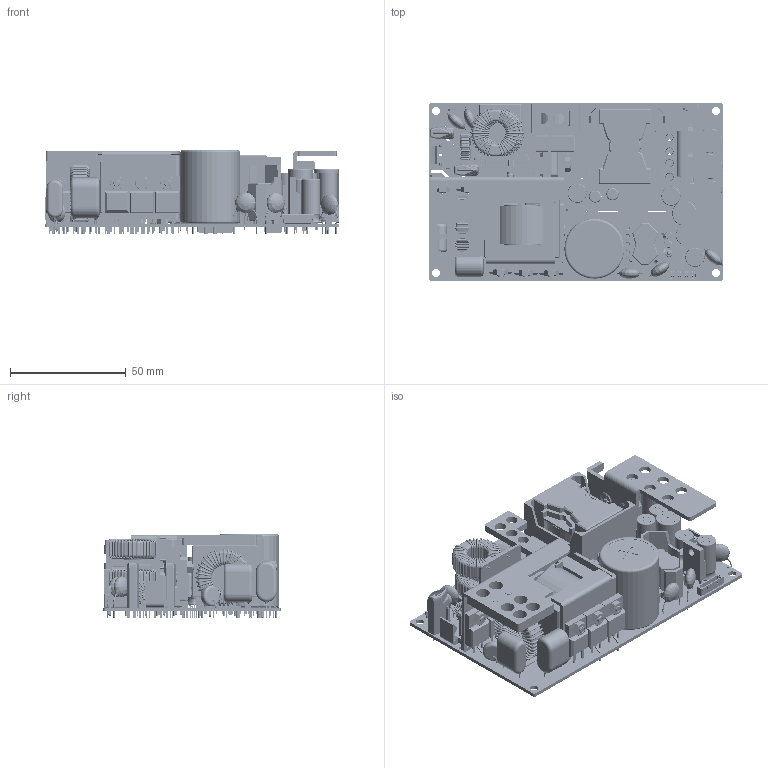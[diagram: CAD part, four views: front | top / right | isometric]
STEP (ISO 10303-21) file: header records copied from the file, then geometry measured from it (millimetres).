
FILE_DESCRIPTION((''),'2;1');
FILE_NAME('MDS-300APB','2015-04-10T',('Xiaojun.Wu'),(''),'CREO PARAMETRIC BY PTC INC, 2014500','CREO PARAMETRIC BY PTC INC, 2014500','');
FILE_SCHEMA(('CONFIG_CONTROL_DESIGN'));
Products named in the file (91): MDS-300WAPB24_AA_PCB_AF0; HEAT_SINK-1_AF1; HSK-1; PIN_AF0; PIN_AF1; HEAT_SINK-1_AF0; Q5_Q6_AF0; Q5_Q6_AF1; BD1_AF0; 3105319000_M3X6_GB822; 3105456700_M3X7_GB819; 3110110100_M3_GB6170; HSK1_AF0; HEAT_SINK-2_AF1; PIN_AF2; PIN_AF3; HEAT_SINK-2_AF0; D10_AF0; Q5_Q6_AF2; Q5_Q6_AF3; HSK2_AF0; HEAT_SINK-3_AF1; PIN_AF4; PIN_AF5; HEAT_SINK-3_AF0; Q102_Q101_D101_AF0; Q102_Q101_D101_AF1; HSK3_AF0; HEAT_SINK-4; Q5_Q6_AF4; Q5_Q6_AF5; 3105451900_M3X11_GB822; HSK4_AF0; C1_AF0; CX1_AF0; CN101_AF0; C3_AF0; OUTPUT_TERMINAL_AF0; OUTPUT_TERMINAL_AF1; C5_AF0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
Assembly tree (109 placements, depth 4):
  MDS-300APB
    MDS-300WAPB24_AA_PCB_AF0
    HSK1_AF0
      HEAT_SINK-1_AF0
        HEAT_SINK-1_AF1
        HSK-1
        PIN_AF0
        PIN_AF1
      Q5_Q6_AF0
      Q5_Q6_AF1
      BD1_AF0
      3105319000_M3X6_GB822
      3105456700_M3X7_GB819  x2
      3110110100_M3_GB6170  x2
    HSK2_AF0
      HEAT_SINK-2_AF0
        HEAT_SINK-2_AF1
        PIN_AF2
        PIN_AF3
      D10_AF0
      Q5_Q6_AF2
      Q5_Q6_AF3
      3105456700_M3X7_GB819  x3
      3110110100_M3_GB6170  x3
    HSK3_AF0
      HEAT_SINK-3_AF0
        HEAT_SINK-3_AF1
        PIN_AF4
        PIN_AF5
      Q102_Q101_D101_AF0
      Q102_Q101_D101_AF1
      3105456700_M3X7_GB819  x2
      3110110100_M3_GB6170  x2
    HSK4_AF0
      HEAT_SINK-4
      Q5_Q6_AF4
      Q5_Q6_AF5
      3105451900_M3X11_GB822
      3110110100_M3_GB6170
    C1_AF0
    CX1_AF0
    CN101_AF0
    C3_AF0
    OUTPUT_TERMINAL_AF0
    OUTPUT_TERMINAL_AF1
    C5_AF0
    C6_AF0
    CY_AF0
    CY_AF1
    CY_AF2
    CY_AF3
    C101_AF0
    C101_AF1
    C101_AF2
    C103_AF0
    C103_AF1
    C103_AF2
    C115_C116_AF0
    C115_C116_AF1
    C25_AF0
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Bounding box: 127.3 x 76.5 x 36.2 mm (x, y, z)
Volume: 140073.8 mm3; surface area: 132684.6 mm2
Topology: 102 solids, 254 shells, 7725 faces, 20113 edges, 14019 vertices
Faces by surface type: plane 3072, cylinder 2680, torus 1334, bspline 314, cone 217, sphere 64, extrusion 34, revolution 10
Entity records: 267806 total; most frequent: CARTESIAN_POINT 60491, DIRECTION 35697, ORIENTED_EDGE 31128, EDGE_CURVE 15582, AXIS2_PLACEMENT_3D 12772, PRESENTATION_STYLE_ASSIGNMENT 12202, STYLED_ITEM 12001, CURVE_STYLE 10657
